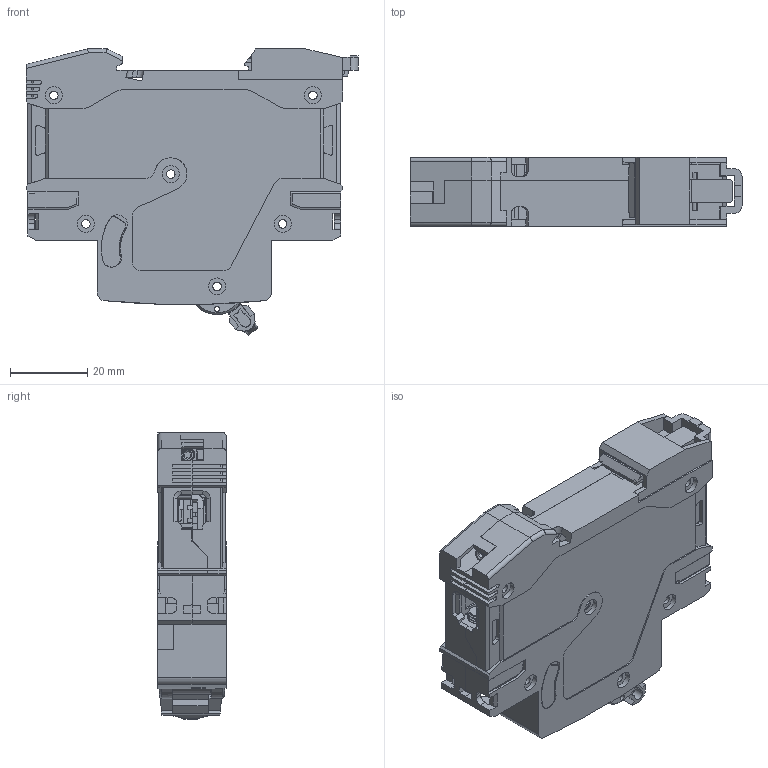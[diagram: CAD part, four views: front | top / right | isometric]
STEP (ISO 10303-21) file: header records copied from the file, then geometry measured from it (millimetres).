
FILE_DESCRIPTION((''),'2;1');
FILE_NAME('NB1-63_1P2020100001_ASM_ASM','2023-07-13T09:47:02',('huytao'),(''),'CREO PARAMETRIC BY PTC INC, 2020044','CREO PARAMETRIC BY PTC INC, 2020044','');
FILE_SCHEMA(('CONFIG_CONTROL_DESIGN','SHAPE_APPEARANCE_LAYERS_GROUPS'));
Products named in the file (4): NB1-63_1P2020100001_ASM_1_1; NB1-63_1P2020100001_ASM_1_2; NB1-63_1P2020100001_ASM_1_ASM; NB1-63_1P2020100001_ASM_ASM
Assembly tree (3 placements, depth 3):
  NB1-63_1P2020100001_ASM_ASM
    NB1-63_1P2020100001_ASM_1_ASM
      NB1-63_1P2020100001_ASM_1_1
      NB1-63_1P2020100001_ASM_1_2
Bounding box: 86 x 17.8 x 74.09 mm (x, y, z)
Volume: 14673.8 mm3; surface area: 43002.1 mm2
Topology: 2 solids, 9 shells, 2470 faces, 7386 edges, 4917 vertices
Faces by surface type: plane 1762, cylinder 570, bspline 83, torus 28, cone 17, sphere 10
Entity records: 140043 total; most frequent: CARTESIAN_POINT 33778, ORIENTED_EDGE 14710, DIRECTION 12909, PRESENTATION_STYLE_ASSIGNMENT 9859, STYLED_ITEM 9859, CURVE_STYLE 7380, EDGE_CURVE 7380, VECTOR 5459
